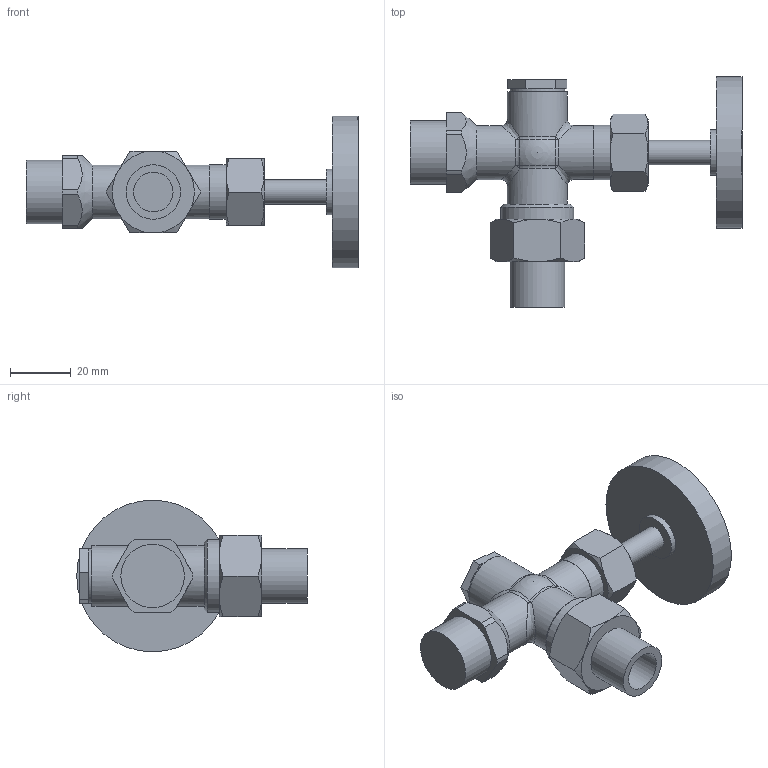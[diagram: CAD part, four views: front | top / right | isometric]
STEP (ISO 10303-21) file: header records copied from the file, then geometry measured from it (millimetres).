
FILE_DESCRIPTION(/* description */ (''),/* implementation_level */ '2;1');
FILE_NAME(/* name */ '571BO-015-PN10.stp',/* time_stamp */ '2024-08-17T12:31:47+02:00',/* author */ ('roger.thijssen'),/* organization */ (''),/* preprocessor_version */ 'ST-DEVELOPER v20',/* originating_system */ 'Autodesk Inventor 2024',/* authorisation */ '');
FILE_SCHEMA (('AUTOMOTIVE_DESIGN { 1 0 10303 214 3 1 1 }'));
Length unit declared in the file: millimetre
Products named in the file (1): 571BO-015-PN10
Bounding box: 109.5 x 76 x 50 mm (x, y, z)
Volume: 63859.5 mm3; surface area: 17286.2 mm2
Topology: 1 solids, 1 shells, 118 faces, 259 edges, 152 vertices
Faces by surface type: plane 51, cone 26, cylinder 19, sphere 10, torus 8, bspline 4
Full cylindrical faces by diameter (mm): 8 x1, 13 x1, 15 x1, 17.8 x2, 18 x3, 19.8 x2, 20.955 x1, 24 x1, 50 x1
Entity records: 3562 total; most frequent: CARTESIAN_POINT 916, DIRECTION 537, ORIENTED_EDGE 514, EDGE_CURVE 257, AXIS2_PLACEMENT_3D 231, VERTEX_POINT 152, EDGE_LOOP 129, STYLED_ITEM 119
